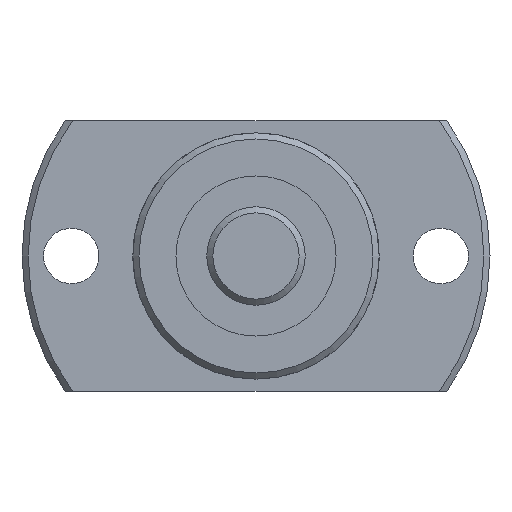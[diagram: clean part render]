
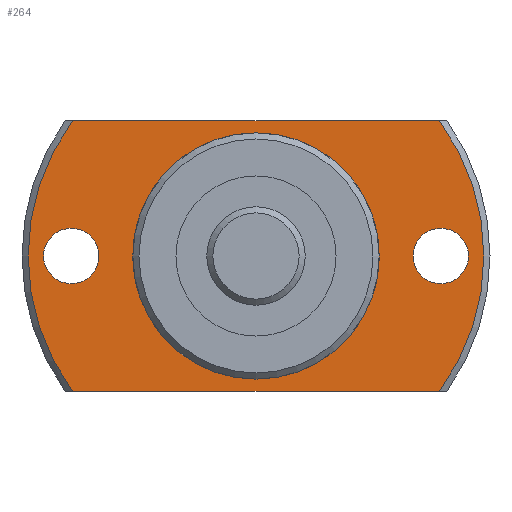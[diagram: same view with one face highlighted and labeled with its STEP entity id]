
A CAD part, left-side view. The second image highlights one B-rep face of the part: STEP entity #264.
In plain terms, the highlighted planar face has unit normal (-1, 0, 0).
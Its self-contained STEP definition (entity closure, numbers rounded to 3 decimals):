
#264 = ADVANCED_FACE( '', ( #535, #536, #537, #538 ), #539, .F. );
#535 = FACE_OUTER_BOUND( '', #799, .T. );
#536 = FACE_BOUND( '', #800, .T. );
#537 = FACE_BOUND( '', #801, .T. );
#538 = FACE_BOUND( '', #802, .T. );
#539 = PLANE( '', #803 );
#799 = EDGE_LOOP( '', ( #1341, #1342, #1343, #1344 ) );
#800 = EDGE_LOOP( '', ( #1345 ) );
#801 = EDGE_LOOP( '', ( #1346 ) );
#802 = EDGE_LOOP( '', ( #1347 ) );
#803 = AXIS2_PLACEMENT_3D( '', #1348, #1349, #1350 );
#1341 = ORIENTED_EDGE( '', *, *, #1443, .F. );
#1342 = ORIENTED_EDGE( '', *, *, #1514, .T. );
#1343 = ORIENTED_EDGE( '', *, *, #1583, .F. );
#1344 = ORIENTED_EDGE( '', *, *, #1573, .T. );
#1345 = ORIENTED_EDGE( '', *, *, #1559, .T. );
#1346 = ORIENTED_EDGE( '', *, *, #1495, .T. );
#1347 = ORIENTED_EDGE( '', *, *, #1501, .T. );
#1348 = CARTESIAN_POINT( '', ( 19., 9.85, 0. ) );
#1349 = DIRECTION( '', ( 1., 0., 0. ) );
#1350 = DIRECTION( '', ( 0., 0., -1. ) );
#1443 = EDGE_CURVE( '', #1681, #1682, #1683, .T. );
#1495 = EDGE_CURVE( '', #1768, #1768, #1769, .T. );
#1501 = EDGE_CURVE( '', #1777, #1777, #1778, .T. );
#1514 = EDGE_CURVE( '', #1681, #1794, #1796, .T. );
#1559 = EDGE_CURVE( '', #1865, #1865, #1866, .T. );
#1573 = EDGE_CURVE( '', #1885, #1682, #1886, .T. );
#1583 = EDGE_CURVE( '', #1885, #1794, #1899, .T. );
#1681 = VERTEX_POINT( '', #2019 );
#1682 = VERTEX_POINT( '', #2020 );
#1683 = CIRCLE( '', #2021, 18.5 );
#1768 = VERTEX_POINT( '', #2148 );
#1769 = CIRCLE( '', #2149, 2.25 );
#1777 = VERTEX_POINT( '', #2157 );
#1778 = CIRCLE( '', #2158, 9.85 );
#1794 = VERTEX_POINT( '', #2177 );
#1796 = LINE( '', #2182, #2183 );
#1865 = VERTEX_POINT( '', #2288 );
#1866 = CIRCLE( '', #2289, 2.25 );
#1885 = VERTEX_POINT( '', #2314 );
#1886 = LINE( '', #2315, #2316 );
#1899 = CIRCLE( '', #2340, 18.5 );
#2019 = CARTESIAN_POINT( '', ( 19., 14.874, -11. ) );
#2020 = CARTESIAN_POINT( '', ( 19., 14.874, 11. ) );
#2021 = AXIS2_PLACEMENT_3D( '', #2461, #2462, #2463 );
#2148 = CARTESIAN_POINT( '', ( 19., -15., -2.25 ) );
#2149 = AXIS2_PLACEMENT_3D( '', #2529, #2530, #2531 );
#2157 = CARTESIAN_POINT( '', ( 19., 0., -9.85 ) );
#2158 = AXIS2_PLACEMENT_3D( '', #2541, #2542, #2543 );
#2177 = CARTESIAN_POINT( '', ( 19., -14.874, -11. ) );
#2182 = CARTESIAN_POINT( '', ( 19., 9.85, -11. ) );
#2183 = VECTOR( '', #2559, 1000. );
#2288 = CARTESIAN_POINT( '', ( 19., 15., -2.25 ) );
#2289 = AXIS2_PLACEMENT_3D( '', #2613, #2614, #2615 );
#2314 = CARTESIAN_POINT( '', ( 19., -14.874, 11. ) );
#2315 = CARTESIAN_POINT( '', ( 19., 9.85, 11. ) );
#2316 = VECTOR( '', #2631, 1000. );
#2340 = AXIS2_PLACEMENT_3D( '', #2637, #2638, #2639 );
#2461 = CARTESIAN_POINT( '', ( 19., 0., 0. ) );
#2462 = DIRECTION( '', ( 1., 0., 0. ) );
#2463 = DIRECTION( '', ( 0., 0., -1. ) );
#2529 = CARTESIAN_POINT( '', ( 19., -15., 0. ) );
#2530 = DIRECTION( '', ( 1., 0., 0. ) );
#2531 = DIRECTION( '', ( 0., 0., -1. ) );
#2541 = CARTESIAN_POINT( '', ( 19., 0., 0. ) );
#2542 = DIRECTION( '', ( 1., 0., 0. ) );
#2543 = DIRECTION( '', ( 0., 0., -1. ) );
#2559 = DIRECTION( '', ( 0., -1., 0. ) );
#2613 = CARTESIAN_POINT( '', ( 19., 15., 0. ) );
#2614 = DIRECTION( '', ( 1., 0., 0. ) );
#2615 = DIRECTION( '', ( 0., 0., -1. ) );
#2631 = DIRECTION( '', ( 0., 1., 0. ) );
#2637 = CARTESIAN_POINT( '', ( 19., 0., 0. ) );
#2638 = DIRECTION( '', ( 1., 0., 0. ) );
#2639 = DIRECTION( '', ( 0., 0., -1. ) );
